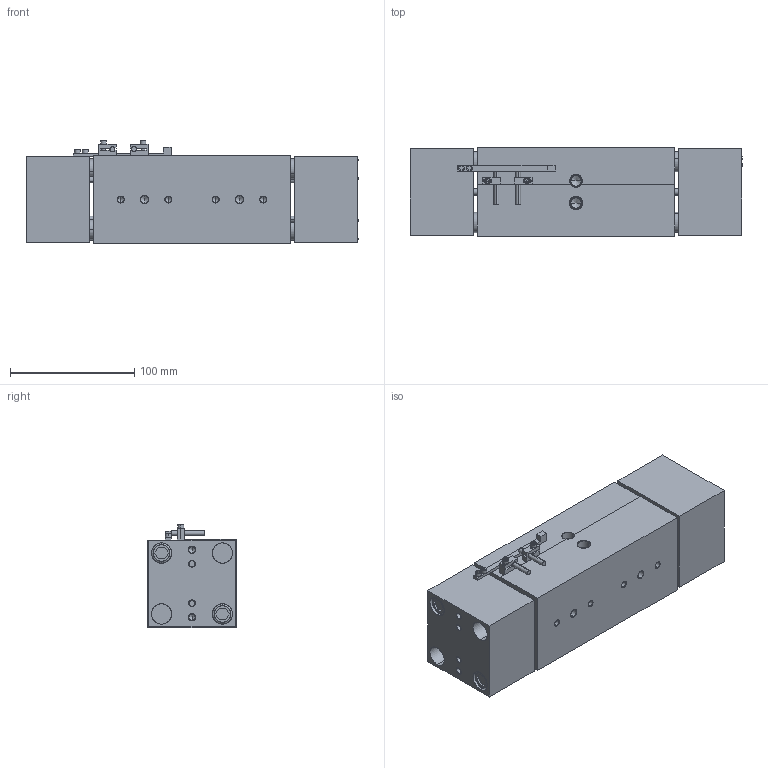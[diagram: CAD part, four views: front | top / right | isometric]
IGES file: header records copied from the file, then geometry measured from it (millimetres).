
Start section: SolidWorks IGES file using analytic representation for surfaces
Global section: file name: C:\Users\jmkuhnes\Pictures\My Transfers\AGW-625-4\AGW-625-4 CLOSED in IN.IGS; native system: SolidWorks 2013; preprocessor: SolidWorks 2013; author: jmkuhnes; date: 141125.095557; units: inch
Bounding box: 266.7 x 71.12 x 83.19 mm (x, y, z)
Surface area: 201834.6 mm2 (no closed solid volume)
Topology: 0 solids, 0 shells, 389 faces, 5110 edges, 5074 vertices
Faces by surface type: revolution 216, bspline 173
